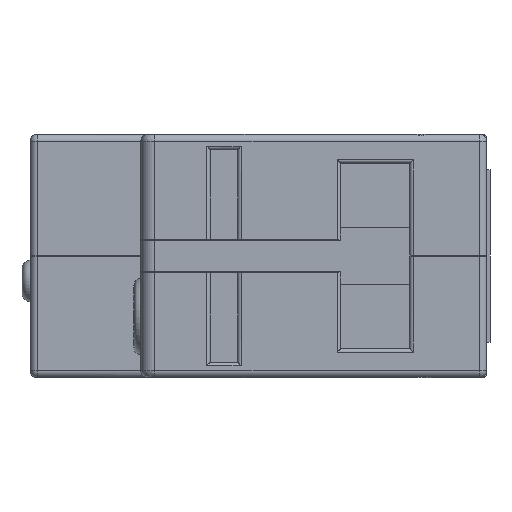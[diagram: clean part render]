
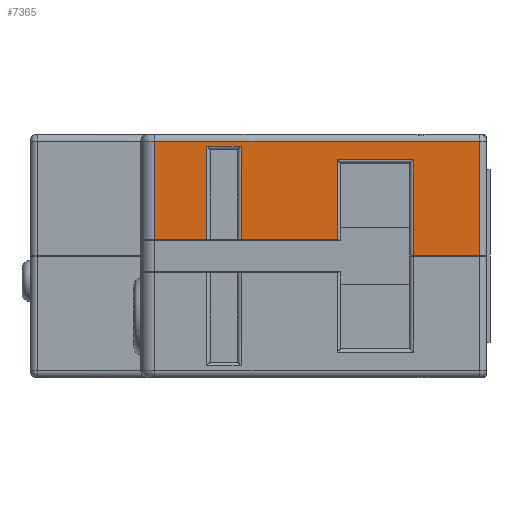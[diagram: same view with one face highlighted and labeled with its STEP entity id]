
A CAD part, left-side view. The second image highlights one B-rep face of the part: STEP entity #7365.
In plain terms, the highlighted planar face has unit normal (-1, 0, 0).
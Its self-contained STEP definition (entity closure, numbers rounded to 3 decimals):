
#70=FACE_BOUND('',#2625,.T.);
#370=LINE('',#11003,#1197);
#372=LINE('',#11009,#1199);
#375=LINE('',#11017,#1202);
#376=LINE('',#11019,#1203);
#377=LINE('',#11021,#1204);
#378=LINE('',#11023,#1205);
#379=LINE('',#11025,#1206);
#380=LINE('',#11026,#1207);
#381=LINE('',#11029,#1208);
#382=LINE('',#11031,#1209);
#383=LINE('',#11033,#1210);
#384=LINE('',#11034,#1211);
#1197=VECTOR('',#8780,10.);
#1199=VECTOR('',#8786,10.);
#1202=VECTOR('',#8795,10.);
#1203=VECTOR('',#8796,10.);
#1204=VECTOR('',#8797,10.);
#1205=VECTOR('',#8798,10.);
#1206=VECTOR('',#8799,10.);
#1207=VECTOR('',#8800,10.);
#1208=VECTOR('',#8801,10.);
#1209=VECTOR('',#8802,10.);
#1210=VECTOR('',#8803,10.);
#1211=VECTOR('',#8804,10.);
#1922=PLANE('',#7897);
#2211=FACE_OUTER_BOUND('',#2624,.T.);
#2624=EDGE_LOOP('',(#5305,#5306,#5307,#5308,#5309,#5310,#5311,#5312));
#2625=EDGE_LOOP('',(#5313,#5314,#5315,#5316));
#3363=VERTEX_POINT('',#11000);
#3364=VERTEX_POINT('',#11002);
#3366=VERTEX_POINT('',#11008);
#3368=VERTEX_POINT('',#11016);
#3369=VERTEX_POINT('',#11018);
#3370=VERTEX_POINT('',#11020);
#3371=VERTEX_POINT('',#11022);
#3372=VERTEX_POINT('',#11024);
#3373=VERTEX_POINT('',#11027);
#3374=VERTEX_POINT('',#11028);
#3375=VERTEX_POINT('',#11030);
#3376=VERTEX_POINT('',#11032);
#4107=EDGE_CURVE('',#3363,#3364,#370,.T.);
#4110=EDGE_CURVE('',#3366,#3364,#372,.T.);
#4115=EDGE_CURVE('',#3363,#3368,#375,.T.);
#4116=EDGE_CURVE('',#3368,#3369,#376,.T.);
#4117=EDGE_CURVE('',#3369,#3370,#377,.T.);
#4118=EDGE_CURVE('',#3371,#3370,#378,.T.);
#4119=EDGE_CURVE('',#3372,#3371,#379,.T.);
#4120=EDGE_CURVE('',#3366,#3372,#380,.T.);
#4121=EDGE_CURVE('',#3373,#3374,#381,.T.);
#4122=EDGE_CURVE('',#3375,#3373,#382,.T.);
#4123=EDGE_CURVE('',#3376,#3375,#383,.T.);
#4124=EDGE_CURVE('',#3374,#3376,#384,.T.);
#5305=ORIENTED_EDGE('',*,*,#4107,.F.);
#5306=ORIENTED_EDGE('',*,*,#4115,.T.);
#5307=ORIENTED_EDGE('',*,*,#4116,.T.);
#5308=ORIENTED_EDGE('',*,*,#4117,.T.);
#5309=ORIENTED_EDGE('',*,*,#4118,.F.);
#5310=ORIENTED_EDGE('',*,*,#4119,.F.);
#5311=ORIENTED_EDGE('',*,*,#4120,.F.);
#5312=ORIENTED_EDGE('',*,*,#4110,.T.);
#5313=ORIENTED_EDGE('',*,*,#4121,.F.);
#5314=ORIENTED_EDGE('',*,*,#4122,.F.);
#5315=ORIENTED_EDGE('',*,*,#4123,.F.);
#5316=ORIENTED_EDGE('',*,*,#4124,.F.);
#7365=ADVANCED_FACE('',(#2211,#70),#1922,.T.);
#7897=AXIS2_PLACEMENT_3D('',#11015,#8793,#8794);
#8780=DIRECTION('',(0.,0.,-1.));
#8786=DIRECTION('',(0.,-1.,0.));
#8793=DIRECTION('center_axis',(-1.,0.,0.));
#8794=DIRECTION('ref_axis',(0.,-1.,0.));
#8795=DIRECTION('',(0.,-1.,0.));
#8796=DIRECTION('',(0.,0.,-1.));
#8797=DIRECTION('',(0.,-1.,0.));
#8798=DIRECTION('',(0.,0.,-1.));
#8799=DIRECTION('',(0.,-1.,0.));
#8800=DIRECTION('',(0.,0.,1.));
#8801=DIRECTION('',(0.,-1.,0.));
#8802=DIRECTION('',(0.,0.,-1.));
#8803=DIRECTION('',(0.,1.,0.));
#8804=DIRECTION('',(0.,0.,1.));
#11000=CARTESIAN_POINT('',(0.,21.6,31.5));
#11002=CARTESIAN_POINT('',(0.,21.6,19.925));
#11003=CARTESIAN_POINT('',(0.,21.6,15.5));
#11008=CARTESIAN_POINT('',(0.,48.,19.925));
#11009=CARTESIAN_POINT('',(0.,35.8,19.925));
#11015=CARTESIAN_POINT('Origin',(0.,50.,0.));
#11016=CARTESIAN_POINT('',(0.,10.6,31.5));
#11017=CARTESIAN_POINT('',(0.,30.55,31.5));
#11018=CARTESIAN_POINT('',(0.,10.6,17.625));
#11019=CARTESIAN_POINT('',(0.,10.6,10.85));
#11020=CARTESIAN_POINT('',(0.,1.,17.625));
#11021=CARTESIAN_POINT('',(0.,41.725,17.625));
#11022=CARTESIAN_POINT('',(0.,1.,34.2));
#11023=CARTESIAN_POINT('',(0.,1.,0.));
#11024=CARTESIAN_POINT('',(0.,48.,34.2));
#11025=CARTESIAN_POINT('',(0.,40.001,34.2));
#11026=CARTESIAN_POINT('',(0.,48.,0.));
#11027=CARTESIAN_POINT('',(0.,40.5,20.));
#11028=CARTESIAN_POINT('',(0.,35.5,20.));
#11029=CARTESIAN_POINT('',(0.,45.,20.));
#11030=CARTESIAN_POINT('',(0.,40.5,33.5));
#11031=CARTESIAN_POINT('',(0.,40.5,16.5));
#11032=CARTESIAN_POINT('',(0.,35.5,33.5));
#11033=CARTESIAN_POINT('',(0.,43.,33.5));
#11034=CARTESIAN_POINT('',(0.,35.5,10.));
